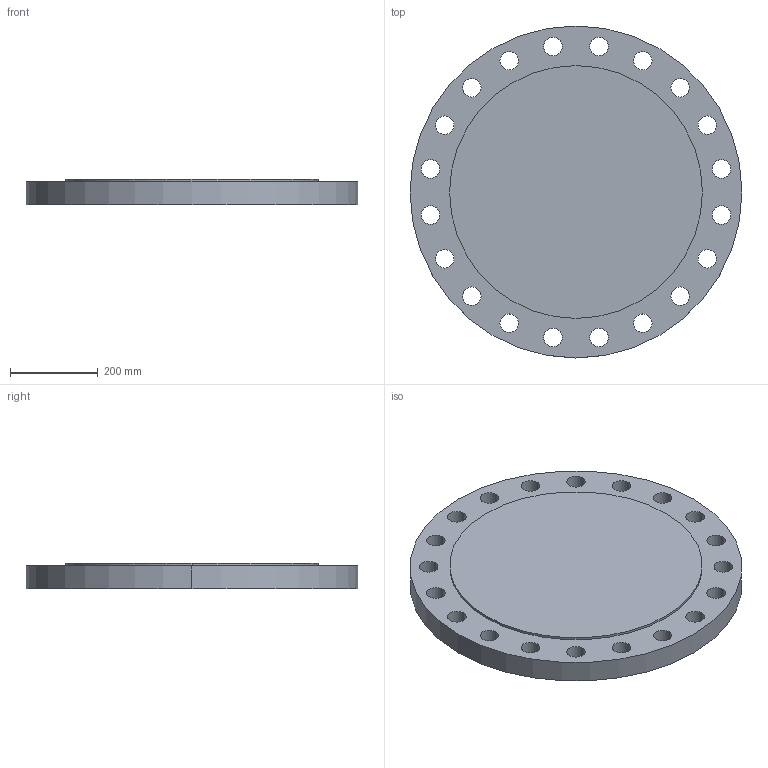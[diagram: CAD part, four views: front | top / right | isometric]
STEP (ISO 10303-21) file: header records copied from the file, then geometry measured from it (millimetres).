
FILE_DESCRIPTION (( 'STEP AP214' ), '1' );
FILE_NAME ('PN40 DN500 Type 05 - Type E Face.STEP', '2018-12-29T01:30:47', ( '' ), ( '' ), 'SwSTEP 2.0', 'SolidWorks 2019', '' );
FILE_SCHEMA (( 'AUTOMOTIVE_DESIGN' ));
Length unit declared in the file: millimetre
Products named in the file (1): PN40 DN500 Type 05 - Type E Face
Bounding box: 755 x 755 x 57 mm (x, y, z)
Volume: 23057566.1 mm3; surface area: 1107969 mm2
Topology: 1 solids, 1 shells, 47 faces, 132 edges, 88 vertices
Faces by surface type: cylinder 44, plane 3
Entity records: 1688 total; most frequent: DIRECTION 316, CARTESIAN_POINT 268, ORIENTED_EDGE 264, AXIS2_PLACEMENT_3D 136, EDGE_CURVE 132, VERTEX_POINT 88, EDGE_LOOP 88, CIRCLE 88
